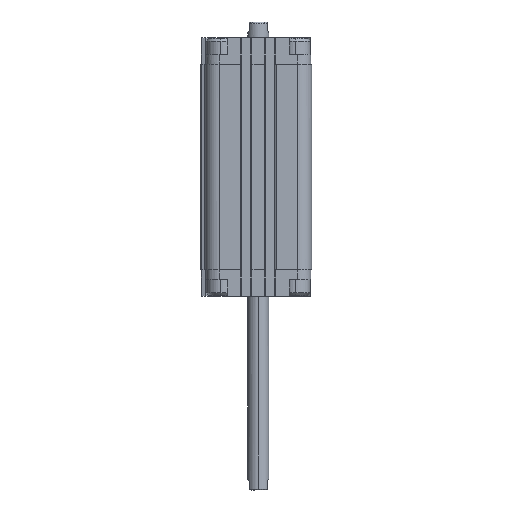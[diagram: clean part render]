
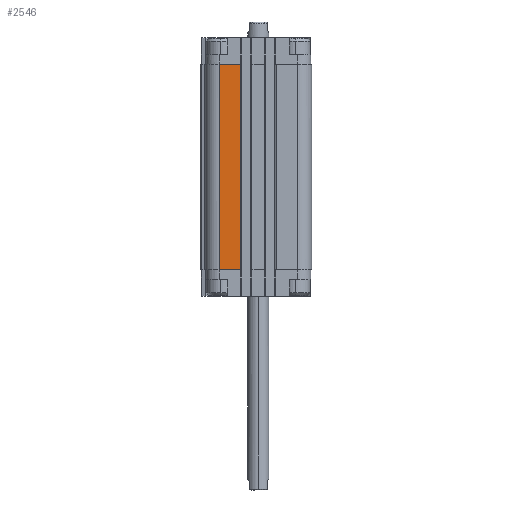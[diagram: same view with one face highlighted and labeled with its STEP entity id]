
A CAD part, left-side view. The second image highlights one B-rep face of the part: STEP entity #2546.
In plain terms, the highlighted planar face has unit normal (-1, 0, 0).
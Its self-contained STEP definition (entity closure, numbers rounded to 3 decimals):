
#1394 = ORIENTED_EDGE ( 'NONE', *, *, #21637, .T. ) ;
#1395 = ORIENTED_EDGE ( 'NONE', *, *, #10162, .F. ) ;
#1396 = ORIENTED_EDGE ( 'NONE', *, *, #21635, .F. ) ;
#1397 = ORIENTED_EDGE ( 'NONE', *, *, #21638, .T. ) ;
#2546 = ADVANCED_FACE ( 'NONE', ( #5439 ), #6651, .F. ) ;
#5439 = FACE_OUTER_BOUND ( 'NONE', #8688, .T. ) ;
#5696 = AXIS2_PLACEMENT_3D ( 'NONE', #6646, #6654, #6655 ) ;
#6646 = CARTESIAN_POINT ( 'NONE',  ( -30., 10., 40.5 ) ) ;
#6651 = PLANE ( 'NONE',  #5696 ) ;
#6654 = DIRECTION ( 'NONE',  ( 1., 0., 0. ) ) ;
#6655 = DIRECTION ( 'NONE',  ( 0., 0., -1. ) ) ;
#8688 = EDGE_LOOP ( 'NONE', ( #1394, #1395, #1396, #1397 ) ) ;
#10162 = EDGE_CURVE ( 'NONE', #20316, #20294, #10835, .T. ) ;
#10835 = LINE ( 'NONE', #11679, #10837 ) ;
#10837 = VECTOR ( 'NONE', #11680, 1000. ) ;
#11679 = CARTESIAN_POINT ( 'NONE',  ( -30., 16., 40.5 ) ) ;
#11680 = DIRECTION ( 'NONE',  ( 0., -1., 0. ) ) ;
#14153 = DIRECTION ( 'NONE',  ( 0., 0., 1. ) ) ;
#14156 = CARTESIAN_POINT ( 'NONE',  ( -30., 22., -17.25 ) ) ;
#14157 = CARTESIAN_POINT ( 'NONE',  ( -30., 10., -17.25 ) ) ;
#14158 = DIRECTION ( 'NONE',  ( 0., 0., 1. ) ) ;
#14159 = CARTESIAN_POINT ( 'NONE',  ( -30., 21., -75. ) ) ;
#14164 = DIRECTION ( 'NONE',  ( 0., -1., 0. ) ) ;
#14538 = CARTESIAN_POINT ( 'NONE',  ( -30., 10., 40.5 ) ) ;
#14560 = CARTESIAN_POINT ( 'NONE',  ( -30., 22., 40.5 ) ) ;
#14704 = CARTESIAN_POINT ( 'NONE',  ( -30., 10., -75. ) ) ;
#14705 = CARTESIAN_POINT ( 'NONE',  ( -30., 22., -75. ) ) ;
#16571 = LINE ( 'NONE', #14156, #16574 ) ;
#16573 = LINE ( 'NONE', #14159, #16579 ) ;
#16574 = VECTOR ( 'NONE', #14158, 1000. ) ;
#16575 = LINE ( 'NONE', #14157, #16577 ) ;
#16577 = VECTOR ( 'NONE', #14153, 1000. ) ;
#16579 = VECTOR ( 'NONE', #14164, 1000. ) ;
#20294 = VERTEX_POINT ( 'NONE', #14538 ) ;
#20316 = VERTEX_POINT ( 'NONE', #14560 ) ;
#20460 = VERTEX_POINT ( 'NONE', #14704 ) ;
#20461 = VERTEX_POINT ( 'NONE', #14705 ) ;
#21635 = EDGE_CURVE ( 'NONE', #20461, #20316, #16571, .T. ) ;
#21637 = EDGE_CURVE ( 'NONE', #20460, #20294, #16575, .T. ) ;
#21638 = EDGE_CURVE ( 'NONE', #20461, #20460, #16573, .T. ) ;
